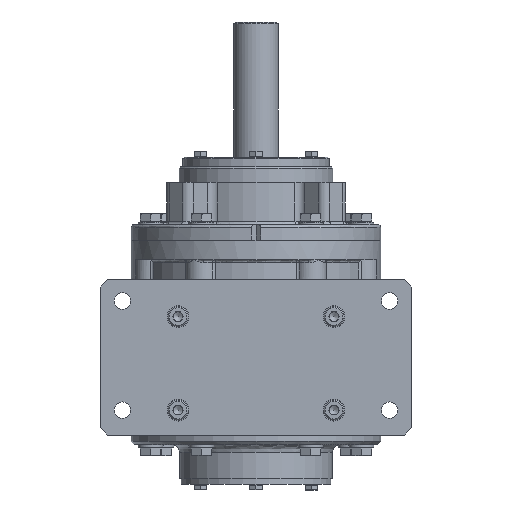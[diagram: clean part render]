
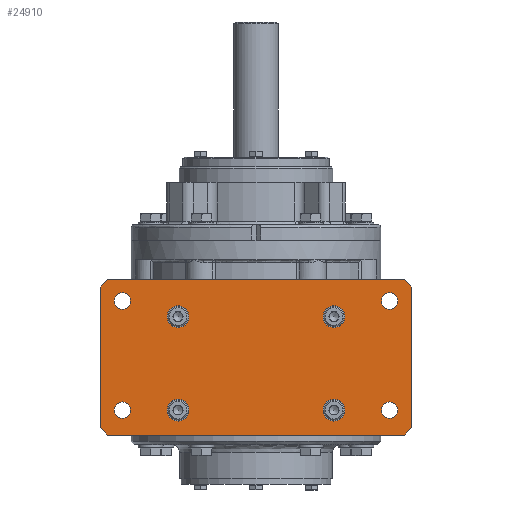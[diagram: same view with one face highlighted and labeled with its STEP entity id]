
A CAD part, front view. The second image highlights one B-rep face of the part: STEP entity #24910.
In plain terms, the highlighted planar face has unit normal (0, -1, 0).
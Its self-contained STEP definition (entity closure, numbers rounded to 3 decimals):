
#546 = EDGE_LOOP ( 'NONE', ( #56645 ) ) ;
#2092 = EDGE_CURVE ( 'NONE', #56858, #3270, #27743, .T. ) ;
#2294 = VERTEX_POINT ( 'NONE', #13276 ) ;
#2361 = ORIENTED_EDGE ( 'NONE', *, *, #31563, .F. ) ;
#2857 = EDGE_LOOP ( 'NONE', ( #33793 ) ) ;
#2874 = DIRECTION ( 'NONE',  ( 0.707, 0., 0.707 ) ) ;
#2875 = CARTESIAN_POINT ( 'NONE',  ( 95., -94.3, 35.5 ) ) ;
#3236 = CARTESIAN_POINT ( 'NONE',  ( -100., -94.3, -64.5 ) ) ;
#3270 = VERTEX_POINT ( 'NONE', #10427 ) ;
#3476 = DIRECTION ( 'NONE',  ( 0., 0., -1. ) ) ;
#3608 = EDGE_CURVE ( 'NONE', #32148, #32148, #53052, .T. ) ;
#3706 = DIRECTION ( 'NONE',  ( -1., 0., 0. ) ) ;
#4374 = ORIENTED_EDGE ( 'NONE', *, *, #36752, .F. ) ;
#4420 = AXIS2_PLACEMENT_3D ( 'NONE', #38718, #52408, #56847 ) ;
#4544 = ORIENTED_EDGE ( 'NONE', *, *, #36590, .F. ) ;
#4675 = AXIS2_PLACEMENT_3D ( 'NONE', #28648, #5609, #55191 ) ;
#5323 = VECTOR ( 'NONE', #11795, 1000. ) ;
#5609 = DIRECTION ( 'NONE',  ( 0., -1., 0. ) ) ;
#5663 = FACE_BOUND ( 'NONE', #546, .T. ) ;
#5916 = CARTESIAN_POINT ( 'NONE',  ( -85.725, -94.3, 21.5 ) ) ;
#6518 = DIRECTION ( 'NONE',  ( 0., -1., 0. ) ) ;
#6944 = DIRECTION ( 'NONE',  ( 0., -1., 0. ) ) ;
#7069 = LINE ( 'NONE', #57150, #43739 ) ;
#7236 = DIRECTION ( 'NONE',  ( 1., 0., 0. ) ) ;
#7601 = CARTESIAN_POINT ( 'NONE',  ( 100., -94.3, -59.5 ) ) ;
#7960 = LINE ( 'NONE', #2875, #49647 ) ;
#8159 = ORIENTED_EDGE ( 'NONE', *, *, #37215, .F. ) ;
#8292 = DIRECTION ( 'NONE',  ( 0., -1., 0. ) ) ;
#8363 = EDGE_LOOP ( 'NONE', ( #28286, #13561, #2361, #22650, #20244, #39432, #55669, #57655 ) ) ;
#9438 = AXIS2_PLACEMENT_3D ( 'NONE', #49175, #8292, #28293 ) ;
#10283 = EDGE_LOOP ( 'NONE', ( #10744 ) ) ;
#10427 = CARTESIAN_POINT ( 'NONE',  ( -95., -94.3, -64.5 ) ) ;
#10471 = FACE_BOUND ( 'NONE', #43113, .T. ) ;
#10744 = ORIENTED_EDGE ( 'NONE', *, *, #42531, .F. ) ;
#11039 = EDGE_CURVE ( 'NONE', #29756, #38661, #44401, .T. ) ;
#11255 = CARTESIAN_POINT ( 'NONE',  ( -50., -94.3, 4.5 ) ) ;
#11795 = DIRECTION ( 'NONE',  ( -0.707, 0., -0.707 ) ) ;
#11958 = AXIS2_PLACEMENT_3D ( 'NONE', #16791, #6944, #35275 ) ;
#11971 = DIRECTION ( 'NONE',  ( -0.707, 0., 0.707 ) ) ;
#12916 = DIRECTION ( 'NONE',  ( 0., -1., 0. ) ) ;
#13276 = CARTESIAN_POINT ( 'NONE',  ( 95., -94.3, 35.5 ) ) ;
#13561 = ORIENTED_EDGE ( 'NONE', *, *, #48428, .F. ) ;
#13781 = EDGE_CURVE ( 'NONE', #58959, #58959, #31989, .T. ) ;
#14004 = ORIENTED_EDGE ( 'NONE', *, *, #13781, .F. ) ;
#14639 = DIRECTION ( 'NONE',  ( -1., 0., 0. ) ) ;
#14675 = FACE_BOUND ( 'NONE', #55425, .T. ) ;
#15935 = VERTEX_POINT ( 'NONE', #30936 ) ;
#15985 = VECTOR ( 'NONE', #36102, 1000. ) ;
#16791 = CARTESIAN_POINT ( 'NONE',  ( 50., -94.3, 11.5 ) ) ;
#17006 = CARTESIAN_POINT ( 'NONE',  ( 95., -94.3, -64.5 ) ) ;
#17031 = LINE ( 'NONE', #43604, #19319 ) ;
#17559 = VERTEX_POINT ( 'NONE', #24275 ) ;
#17854 = CARTESIAN_POINT ( 'NONE',  ( -90.975, -94.3, -48.5 ) ) ;
#18154 = CARTESIAN_POINT ( 'NONE',  ( 80.475, -94.3, -48.5 ) ) ;
#18821 = CARTESIAN_POINT ( 'NONE',  ( 100., -94.3, 30.5 ) ) ;
#19319 = VECTOR ( 'NONE', #11971, 1000. ) ;
#19353 = CARTESIAN_POINT ( 'NONE',  ( -50., -94.3, -55.5 ) ) ;
#20244 = ORIENTED_EDGE ( 'NONE', *, *, #2092, .F. ) ;
#21136 = DIRECTION ( 'NONE',  ( 0.707, 0., -0.707 ) ) ;
#21414 = CARTESIAN_POINT ( 'NONE',  ( 80.475, -94.3, 21.5 ) ) ;
#21983 = CARTESIAN_POINT ( 'NONE',  ( -90.975, -94.3, 21.5 ) ) ;
#22156 = CIRCLE ( 'NONE', #38370, 5.25 ) ;
#22188 = CARTESIAN_POINT ( 'NONE',  ( 85.725, -94.3, -48.5 ) ) ;
#22650 = ORIENTED_EDGE ( 'NONE', *, *, #42261, .F. ) ;
#23023 = FACE_BOUND ( 'NONE', #51739, .T. ) ;
#23190 = AXIS2_PLACEMENT_3D ( 'NONE', #23936, #27796, #37640 ) ;
#23936 = CARTESIAN_POINT ( 'NONE',  ( -100., -94.3, -64.5 ) ) ;
#24275 = CARTESIAN_POINT ( 'NONE',  ( -95., -94.3, 35.5 ) ) ;
#24910 = ADVANCED_FACE ( 'NONE', ( #37051, #37938, #46575, #23023, #14675, #50756, #5663, #10471, #56089 ), #51641, .F. ) ;
#25053 = DIRECTION ( 'NONE',  ( 0., -1., 0. ) ) ;
#25079 = CIRCLE ( 'NONE', #26966, 5.25 ) ;
#25252 = LINE ( 'NONE', #7601, #5323 ) ;
#25347 = CARTESIAN_POINT ( 'NONE',  ( 50., -94.3, -48.5 ) ) ;
#25732 = EDGE_LOOP ( 'NONE', ( #4544 ) ) ;
#26051 = LINE ( 'NONE', #39196, #28336 ) ;
#26966 = AXIS2_PLACEMENT_3D ( 'NONE', #39871, #40451, #3706 ) ;
#27118 = VECTOR ( 'NONE', #3476, 1000. ) ;
#27283 = EDGE_CURVE ( 'NONE', #28890, #28890, #32297, .T. ) ;
#27743 = LINE ( 'NONE', #31893, #15985 ) ;
#27796 = DIRECTION ( 'NONE',  ( 0., 1., 0. ) ) ;
#28286 = ORIENTED_EDGE ( 'NONE', *, *, #57625, .F. ) ;
#28293 = DIRECTION ( 'NONE',  ( 0., 0., -1. ) ) ;
#28336 = VECTOR ( 'NONE', #7236, 1000. ) ;
#28648 = CARTESIAN_POINT ( 'NONE',  ( -50., -94.3, -48.5 ) ) ;
#28890 = VERTEX_POINT ( 'NONE', #11255 ) ;
#29447 = EDGE_CURVE ( 'NONE', #2294, #29756, #7960, .T. ) ;
#29756 = VERTEX_POINT ( 'NONE', #18821 ) ;
#29758 = CARTESIAN_POINT ( 'NONE',  ( 50., -94.3, 4.5 ) ) ;
#30334 = VERTEX_POINT ( 'NONE', #21983 ) ;
#30708 = LINE ( 'NONE', #3236, #54329 ) ;
#30936 = CARTESIAN_POINT ( 'NONE',  ( -100., -94.3, 30.5 ) ) ;
#31563 = EDGE_CURVE ( 'NONE', #47053, #15935, #30708, .T. ) ;
#31893 = CARTESIAN_POINT ( 'NONE',  ( -100., -94.3, -64.5 ) ) ;
#31989 = CIRCLE ( 'NONE', #47260, 5.25 ) ;
#32148 = VERTEX_POINT ( 'NONE', #17854 ) ;
#32297 = CIRCLE ( 'NONE', #9438, 7. ) ;
#33793 = ORIENTED_EDGE ( 'NONE', *, *, #3608, .F. ) ;
#34552 = CARTESIAN_POINT ( 'NONE',  ( 100., -94.3, -64.5 ) ) ;
#34793 = VERTEX_POINT ( 'NONE', #21414 ) ;
#35275 = DIRECTION ( 'NONE',  ( 0., 0., -1. ) ) ;
#36102 = DIRECTION ( 'NONE',  ( -1., 0., 0. ) ) ;
#36590 = EDGE_CURVE ( 'NONE', #42017, #42017, #39959, .T. ) ;
#36752 = EDGE_CURVE ( 'NONE', #42895, #42895, #37105, .T. ) ;
#37051 = FACE_BOUND ( 'NONE', #10283, .T. ) ;
#37105 = CIRCLE ( 'NONE', #55186, 7. ) ;
#37215 = EDGE_CURVE ( 'NONE', #34793, #34793, #25079, .T. ) ;
#37640 = DIRECTION ( 'NONE',  ( 0., 0., 1. ) ) ;
#37648 = CARTESIAN_POINT ( 'NONE',  ( 100., -94.3, -59.5 ) ) ;
#37938 = FACE_BOUND ( 'NONE', #57139, .T. ) ;
#38370 = AXIS2_PLACEMENT_3D ( 'NONE', #5916, #6518, #14639 ) ;
#38661 = VERTEX_POINT ( 'NONE', #37648 ) ;
#38718 = CARTESIAN_POINT ( 'NONE',  ( -85.725, -94.3, -48.5 ) ) ;
#39196 = CARTESIAN_POINT ( 'NONE',  ( -100., -94.3, 35.5 ) ) ;
#39432 = ORIENTED_EDGE ( 'NONE', *, *, #56339, .F. ) ;
#39871 = CARTESIAN_POINT ( 'NONE',  ( 85.725, -94.3, 21.5 ) ) ;
#39959 = CIRCLE ( 'NONE', #4675, 7. ) ;
#40001 = CARTESIAN_POINT ( 'NONE',  ( -100., -94.3, -59.5 ) ) ;
#40451 = DIRECTION ( 'NONE',  ( 0., -1., 0. ) ) ;
#40677 = DIRECTION ( 'NONE',  ( -1., 0., 0. ) ) ;
#40831 = EDGE_CURVE ( 'NONE', #57136, #57136, #58575, .T. ) ;
#42017 = VERTEX_POINT ( 'NONE', #19353 ) ;
#42261 = EDGE_CURVE ( 'NONE', #3270, #47053, #17031, .T. ) ;
#42531 = EDGE_CURVE ( 'NONE', #30334, #30334, #22156, .T. ) ;
#42895 = VERTEX_POINT ( 'NONE', #51253 ) ;
#43113 = EDGE_LOOP ( 'NONE', ( #58206 ) ) ;
#43604 = CARTESIAN_POINT ( 'NONE',  ( -95., -94.3, -64.5 ) ) ;
#43739 = VECTOR ( 'NONE', #2874, 1000. ) ;
#44401 = LINE ( 'NONE', #34552, #27118 ) ;
#46575 = FACE_BOUND ( 'NONE', #2857, .T. ) ;
#47053 = VERTEX_POINT ( 'NONE', #40001 ) ;
#47260 = AXIS2_PLACEMENT_3D ( 'NONE', #22188, #12916, #40677 ) ;
#48428 = EDGE_CURVE ( 'NONE', #15935, #17559, #7069, .T. ) ;
#49175 = CARTESIAN_POINT ( 'NONE',  ( -50., -94.3, 11.5 ) ) ;
#49200 = DIRECTION ( 'NONE',  ( 0., 0., 1. ) ) ;
#49647 = VECTOR ( 'NONE', #21136, 1000. ) ;
#50756 = FACE_BOUND ( 'NONE', #25732, .T. ) ;
#51253 = CARTESIAN_POINT ( 'NONE',  ( 50., -94.3, -55.5 ) ) ;
#51641 = PLANE ( 'NONE',  #23190 ) ;
#51739 = EDGE_LOOP ( 'NONE', ( #14004 ) ) ;
#52408 = DIRECTION ( 'NONE',  ( 0., -1., 0. ) ) ;
#53039 = DIRECTION ( 'NONE',  ( 0., 0., -1. ) ) ;
#53052 = CIRCLE ( 'NONE', #4420, 5.25 ) ;
#54329 = VECTOR ( 'NONE', #49200, 1000. ) ;
#55186 = AXIS2_PLACEMENT_3D ( 'NONE', #25347, #25053, #53039 ) ;
#55191 = DIRECTION ( 'NONE',  ( 0., 0., -1. ) ) ;
#55425 = EDGE_LOOP ( 'NONE', ( #4374 ) ) ;
#55669 = ORIENTED_EDGE ( 'NONE', *, *, #11039, .F. ) ;
#56089 = FACE_OUTER_BOUND ( 'NONE', #8363, .T. ) ;
#56339 = EDGE_CURVE ( 'NONE', #38661, #56858, #25252, .T. ) ;
#56645 = ORIENTED_EDGE ( 'NONE', *, *, #27283, .F. ) ;
#56847 = DIRECTION ( 'NONE',  ( -1., 0., 0. ) ) ;
#56858 = VERTEX_POINT ( 'NONE', #17006 ) ;
#57136 = VERTEX_POINT ( 'NONE', #29758 ) ;
#57139 = EDGE_LOOP ( 'NONE', ( #8159 ) ) ;
#57150 = CARTESIAN_POINT ( 'NONE',  ( -100., -94.3, 30.5 ) ) ;
#57625 = EDGE_CURVE ( 'NONE', #17559, #2294, #26051, .T. ) ;
#57655 = ORIENTED_EDGE ( 'NONE', *, *, #29447, .F. ) ;
#58206 = ORIENTED_EDGE ( 'NONE', *, *, #40831, .F. ) ;
#58575 = CIRCLE ( 'NONE', #11958, 7. ) ;
#58959 = VERTEX_POINT ( 'NONE', #18154 ) ;
